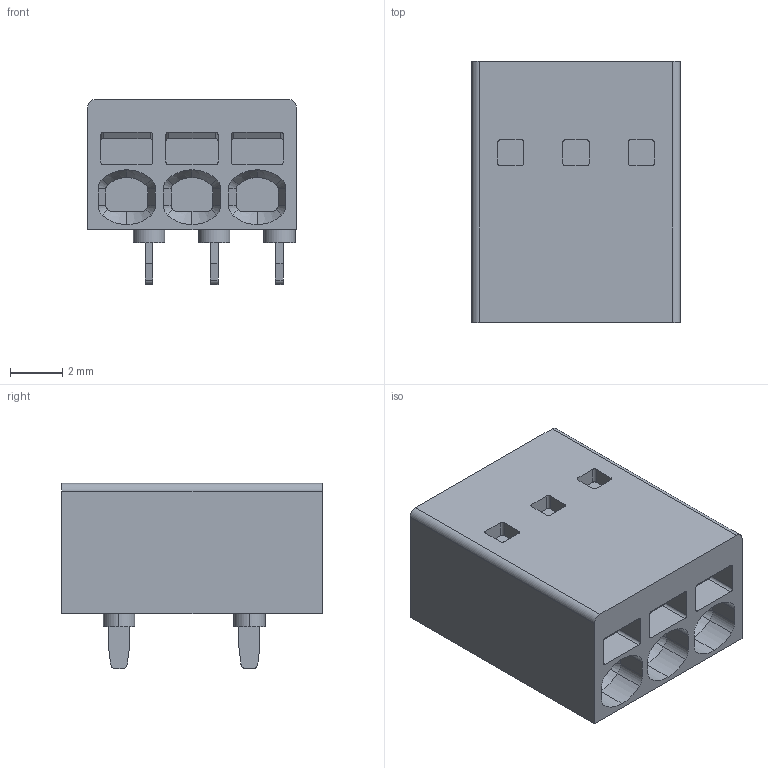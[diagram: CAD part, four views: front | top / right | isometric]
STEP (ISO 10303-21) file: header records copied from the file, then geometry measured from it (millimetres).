
FILE_DESCRIPTION(('STEP AP242'),'1');
FILE_NAME('1770898.stp','2025-01-11T23:18:10',('TraceParts'),('TraceParts S.A.'),'Spatial InterOp 3D',' ',' ');
FILE_SCHEMA(('AP242_MANAGED_MODEL_BASED_3D_ENGINEERING_MIM_LF {1 0 10303 442 1 1 4}'));
Length unit declared in the file: millimetre
Products named in the file (1): 1770898_1
Bounding box: 8 x 10 x 7.1 mm (x, y, z)
Volume: 373.9 mm3; surface area: 456.4 mm2
Topology: 7 solids, 7 shells, 245 faces, 585 edges, 369 vertices
Faces by surface type: plane 117, cylinder 104, cone 24
Entity records: 9167 total; most frequent: CARTESIAN_POINT 1290, DIRECTION 1273, ORIENTED_EDGE 1170, EDGE_CURVE 585, AXIS2_PLACEMENT_3D 448, LINE 377, VECTOR 377, VERTEX_POINT 369
